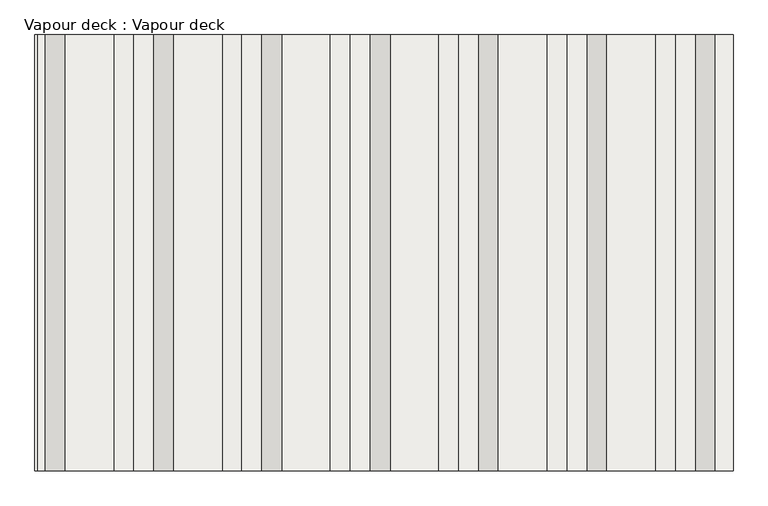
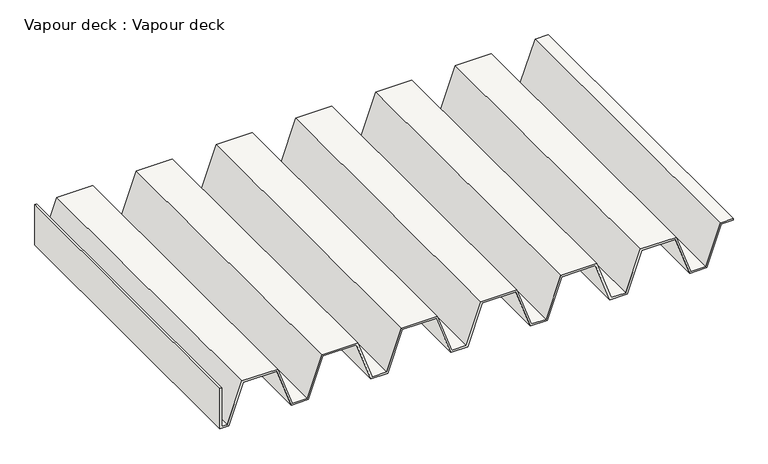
"""IFC4 building model written with IfcOpenShell, lengths in millimetres: slab geometry, Vapour deck : Vapour deck."""

from ifc_helpers import new_model, si_unit, frame, origin, place, context, project, spatial, polyline, outline, extrude, source, transform, mapped, element, save


def vapour_deck_vapour_deck_82465b2e(model_context):
    return source(origin(), model_context, "Body", "SweptSolid", [
        extrude(outline(polyline([(-281.0, 19124.285179), (-281.0, 19174.285179), (-161.0, 19216.785179), (-161.0, 19314.785179), (-281.0, 19357.285179), (-281.0, 19407.285179), (-161.0, 19449.785179), (-161.0, 19547.785179), (-281.0, 19590.285179), (-281.0, 19640.285179), (-161.0, 19682.785179), (-161.0, 19780.785179), (-281.0, 19823.285179), (-281.0, 19873.285179), (-161.0, 19915.785179), (-161.0, 20013.785179), (-281.0, 20056.285179), (-281.0, 20106.285179), (-161.0, 20148.785179), (-161.0, 20246.785179), (-281.0, 20289.285179), (-281.0, 20339.285179), (-161.0, 20381.785179), (-161.0, 20416.285179), (-156.0, 20416.285179), (-156.0, 20378.2516886), (-276.0, 20335.7516886), (-276.0, 20292.8186695), (-156.0, 20250.3186695), (-156.0, 20145.2516886), (-276.0, 20102.7516886), (-276.0, 20059.8186695), (-156.0, 20017.3186695), (-156.0, 19912.2516886), (-276.0, 19869.7516886), (-276.0, 19826.8186695), (-156.0, 19784.3186695), (-156.0, 19679.2516886), (-276.0, 19636.7516886), (-276.0, 19593.8186694), (-156.0, 19551.3186694), (-156.0, 19446.2516886), (-276.0, 19403.7516886), (-276.0, 19360.8186694), (-156.0, 19318.3186694), (-156.0, 19213.2516886), (-276.0, 19170.7516886), (-276.0, 19127.8186694), (-156.0, 19085.3186694), (-156.0, 18980.2516886), (-276.0, 18937.7516886), (-276.0, 18921.285179), (-156.0, 18921.285179), (-156.0, 18916.285179), (-281.0, 18916.285179), (-281.0, 18941.285179), (-161.0, 18983.785179), (-161.0, 19081.785179), (-281.0, 19124.285179)])), frame((0.0, 14926.9464372, 0.0), z_axis=(0.0, 1.0, 0.0), x_axis=(0.0, 0.0, 1.0)), (0.0, 0.0, 1.0), 937.1436707),
    ])


if __name__ == "__main__":
    model = new_model("IFC4")
    model_context = context("Model", 3, world=origin())
    ifc_project = project(units=[si_unit("LENGTHUNIT", "METRE", prefix="MILLI")], contexts=[model_context])
    site = spatial("IfcSite", under=ifc_project)
    building = spatial("IfcBuilding", under=site)
    placement = place(None, origin())
    vapour_deck_vapour_deck_shape = vapour_deck_vapour_deck_82465b2e(model_context)
    element("IfcSlab", 1, ObjectType="Vapour deck : Vapour deck", at=placement, inside=building, context=model_context, shape_type="MappedRepresentation", body=[
        mapped(vapour_deck_vapour_deck_shape, transform((0.0, 0.0, 0.0), x_axis=(1.0, 0.0, 0.0), y_axis=(0.0, 1.0, 0.0), z_axis=(0.0, 0.0, 1.0))),
    ])
    save(model, "model.ifc")
